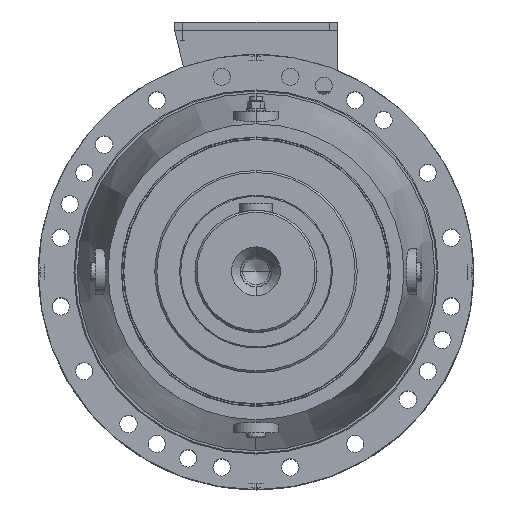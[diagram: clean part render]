
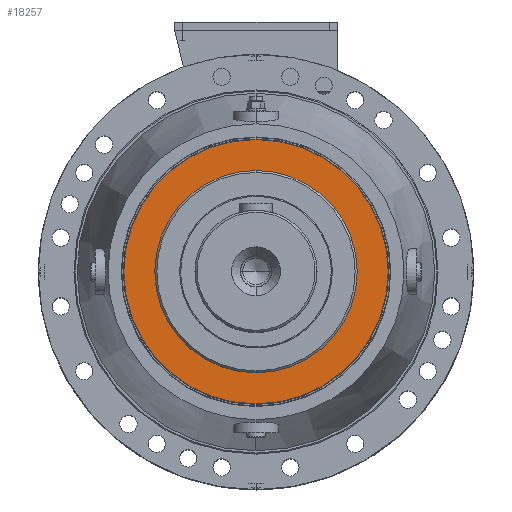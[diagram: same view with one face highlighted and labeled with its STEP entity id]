
A CAD part, top view. The second image highlights one B-rep face of the part: STEP entity #18257.
In plain terms, the highlighted planar face has unit normal (0, 0, 1).
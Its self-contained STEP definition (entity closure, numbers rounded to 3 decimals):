
#1918 = EDGE_CURVE ( 'NONE', #30083, #30051, #132303, .T. ) ;
#1942 = EDGE_CURVE ( 'NONE', #30069, #30064, #132291, .T. ) ;
#2049 = EDGE_CURVE ( 'NONE', #30051, #30083, #132516, .T. ) ;
#2210 = EDGE_CURVE ( 'NONE', #30064, #30069, #132718, .T. ) ;
#12284 = DIRECTION ( 'NONE',  ( 0., 1., 0. ) ) ;
#12319 = CARTESIAN_POINT ( 'NONE',  ( 0., 0., 203. ) ) ;
#12323 = CARTESIAN_POINT ( 'NONE',  ( 0., 0., 203. ) ) ;
#12325 = DIRECTION ( 'NONE',  ( 0., 0., 1. ) ) ;
#12333 = DIRECTION ( 'NONE',  ( 0., 0., -1. ) ) ;
#12346 = DIRECTION ( 'NONE',  ( 0., 1., 0. ) ) ;
#12459 = DIRECTION ( 'NONE',  ( 0., 0., -1. ) ) ;
#12486 = CARTESIAN_POINT ( 'NONE',  ( 0., 0., 203. ) ) ;
#12487 = DIRECTION ( 'NONE',  ( 0., 1., 0. ) ) ;
#18257 = ADVANCED_FACE ( 'NONE', ( #30165, #30223 ), #51574, .F. ) ;
#30051 = VERTEX_POINT ( 'NONE', #56937 ) ;
#30064 = VERTEX_POINT ( 'NONE', #56829 ) ;
#30069 = VERTEX_POINT ( 'NONE', #56798 ) ;
#30083 = VERTEX_POINT ( 'NONE', #56918 ) ;
#30165 = FACE_BOUND ( 'NONE', #39365, .T. ) ;
#30223 = FACE_OUTER_BOUND ( 'NONE', #39320, .T. ) ;
#39320 = EDGE_LOOP ( 'NONE', ( #56856, #56803 ) ) ;
#39365 = EDGE_LOOP ( 'NONE', ( #56924, #56805 ) ) ;
#51574 = PLANE ( 'NONE',  #163861 ) ;
#51606 = CARTESIAN_POINT ( 'NONE',  ( 0., 130., 203. ) ) ;
#51638 = DIRECTION ( 'NONE',  ( 0., 0., -1. ) ) ;
#51660 = DIRECTION ( 'NONE',  ( 0., 1., 0. ) ) ;
#56798 = CARTESIAN_POINT ( 'NONE',  ( 0., -99.5, 203. ) ) ;
#56803 = ORIENTED_EDGE ( 'NONE', *, *, #2049, .F. ) ;
#56805 = ORIENTED_EDGE ( 'NONE', *, *, #1942, .F. ) ;
#56829 = CARTESIAN_POINT ( 'NONE',  ( 0., 99.5, 203. ) ) ;
#56856 = ORIENTED_EDGE ( 'NONE', *, *, #1918, .F. ) ;
#56918 = CARTESIAN_POINT ( 'NONE',  ( 0., 130., 203. ) ) ;
#56924 = ORIENTED_EDGE ( 'NONE', *, *, #2210, .F. ) ;
#56937 = CARTESIAN_POINT ( 'NONE',  ( 0., -130., 203. ) ) ;
#65728 = DIRECTION ( 'NONE',  ( 0., 1., 0. ) ) ;
#65757 = CARTESIAN_POINT ( 'NONE',  ( 0., 0., 203. ) ) ;
#65777 = DIRECTION ( 'NONE',  ( 0., 0., 1. ) ) ;
#116905 = AXIS2_PLACEMENT_3D ( 'NONE', #12323, #12333, #12284 ) ;
#116928 = AXIS2_PLACEMENT_3D ( 'NONE', #12319, #12325, #12346 ) ;
#116949 = AXIS2_PLACEMENT_3D ( 'NONE', #65757, #65777, #65728 ) ;
#117060 = AXIS2_PLACEMENT_3D ( 'NONE', #12486, #12459, #12487 ) ;
#132291 = CIRCLE ( 'NONE', #116928, 99.5 ) ;
#132303 = CIRCLE ( 'NONE', #116905, 130. ) ;
#132516 = CIRCLE ( 'NONE', #117060, 130. ) ;
#132718 = CIRCLE ( 'NONE', #116949, 99.5 ) ;
#163861 = AXIS2_PLACEMENT_3D ( 'NONE', #51606, #51638, #51660 ) ;
